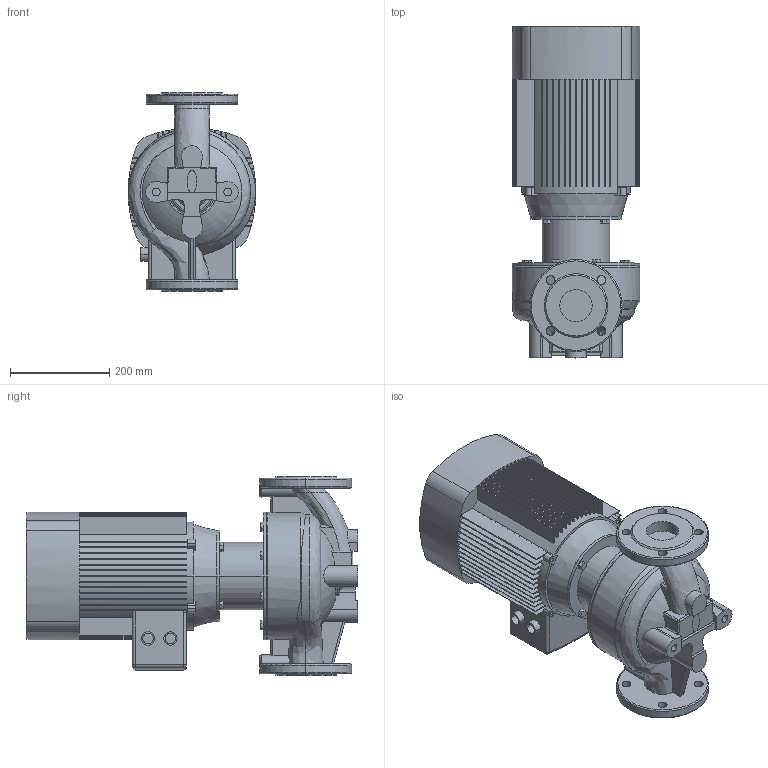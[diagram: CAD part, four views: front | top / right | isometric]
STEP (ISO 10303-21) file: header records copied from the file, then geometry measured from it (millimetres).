
FILE_DESCRIPTION (( 'STEP AP203' ), '1' );
FILE_NAME ('TD65-37G_2.STEP', '2022-05-02T18:49:29', ( '' ), ( '' ), 'SwSTEP 2.0', 'SolidWorks 2019', '' );
FILE_SCHEMA (( 'CONFIG_CONTROL_DESIGN' ));
Length unit declared in the file: millimetre
Products named in the file (4): Pr_ch 65_TD65-37G_2; ED_B14_YE2-132S1-2 (5.5); Fon_65_TD65-37G_2; TD65-37G_2
Assembly tree (3 placements, depth 2):
  TD65-37G_2
    Pr_ch 65_TD65-37G_2
    Fon_65_TD65-37G_2
    ED_B14_YE2-132S1-2 (5.5)
Bounding box: 257 x 668 x 400 mm (x, y, z)
Volume: 27284369.9 mm3; surface area: 1538434.3 mm2
Topology: 3 solids, 5 shells, 660 faces, 1789 edges, 1174 vertices
Faces by surface type: plane 434, cylinder 159, bspline 26, torus 24, cone 11, sphere 6
Entity records: 27505 total; most frequent: CARTESIAN_POINT 10284, ORIENTED_EDGE 3574, DIRECTION 3497, EDGE_CURVE 1787, AXIS2_PLACEMENT_3D 1237, VERTEX_POINT 1174, VECTOR 1023, LINE 1023
